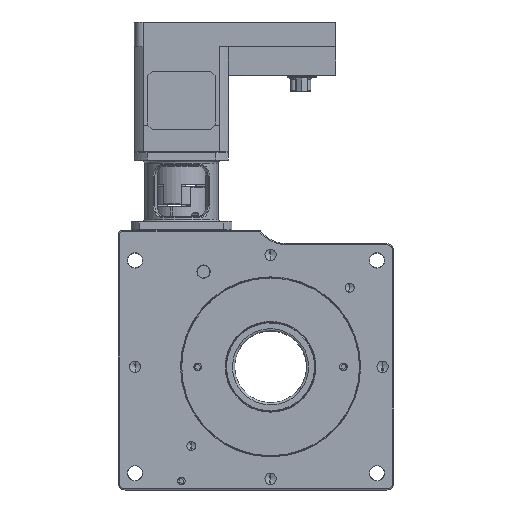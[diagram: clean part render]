
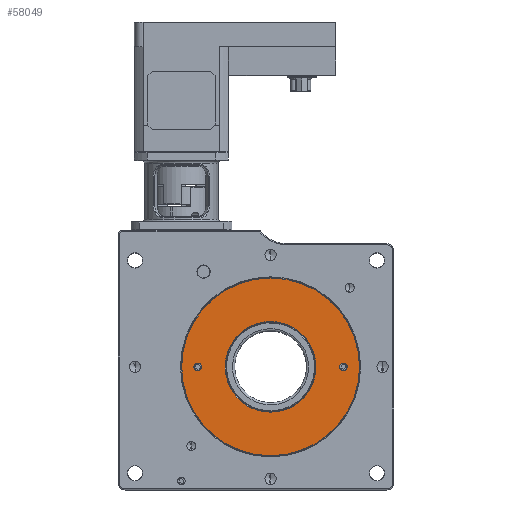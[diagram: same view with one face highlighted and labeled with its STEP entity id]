
A CAD part, front view. The second image highlights one B-rep face of the part: STEP entity #58049.
In plain terms, the highlighted planar face has unit normal (0, -1, 0).
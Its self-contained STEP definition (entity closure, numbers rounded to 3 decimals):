
#1491 = AXIS2_PLACEMENT_3D ( 'NONE', #23564, #49448, #75357 ) ;
#2507 = FACE_BOUND ( 'NONE', #64063, .T. ) ;
#2796 = CIRCLE ( 'NONE', #1491, 1.65 ) ;
#2955 = AXIS2_PLACEMENT_3D ( 'NONE', #27663, #53531, #79399 ) ;
#2981 = CARTESIAN_POINT ( 'NONE',  ( -32.5, 0.2, 1.65 ) ) ;
#3012 = CIRCLE ( 'NONE', #2955, 39.7 ) ;
#3157 = VERTEX_POINT ( 'NONE', #75269 ) ;
#5250 = ORIENTED_EDGE ( 'NONE', *, *, #65575, .T. ) ;
#6347 = DIRECTION ( 'NONE',  ( 0., 0., -1. ) ) ;
#6581 = EDGE_CURVE ( 'NONE', #3157, #76887, #48130, .T. ) ;
#6797 = AXIS2_PLACEMENT_3D ( 'NONE', #79993, #21878, #47754 ) ;
#7324 = ORIENTED_EDGE ( 'NONE', *, *, #58120, .F. ) ;
#10219 = ORIENTED_EDGE ( 'NONE', *, *, #78459, .F. ) ;
#10681 = AXIS2_PLACEMENT_3D ( 'NONE', #83048, #24967, #50836 ) ;
#10797 = CIRCLE ( 'NONE', #10681, 20.25 ) ;
#11390 = CARTESIAN_POINT ( 'NONE',  ( -32.5, 0.2, 0. ) ) ;
#13342 = VERTEX_POINT ( 'NONE', #27548 ) ;
#15002 = DIRECTION ( 'NONE',  ( 0., 0., -1. ) ) ;
#20029 = AXIS2_PLACEMENT_3D ( 'NONE', #11390, #56772, #82623 ) ;
#20080 = CIRCLE ( 'NONE', #20029, 1.65 ) ;
#21878 = DIRECTION ( 'NONE',  ( 0., -1., 0. ) ) ;
#22838 = DIRECTION ( 'NONE',  ( 0., 0., -1. ) ) ;
#23564 = CARTESIAN_POINT ( 'NONE',  ( 32.5, 0.2, 0. ) ) ;
#24073 = DIRECTION ( 'NONE',  ( 0., 0., -1. ) ) ;
#24547 = AXIS2_PLACEMENT_3D ( 'NONE', #47253, #73182, #15002 ) ;
#24592 = CIRCLE ( 'NONE', #24547, 39.7 ) ;
#24967 = DIRECTION ( 'NONE',  ( 0., 1., 0. ) ) ;
#27548 = CARTESIAN_POINT ( 'NONE',  ( 0., 0.2, -20.25 ) ) ;
#27663 = CARTESIAN_POINT ( 'NONE',  ( 0., 0.2, 0. ) ) ;
#28274 = FACE_OUTER_BOUND ( 'NONE', #43494, .T. ) ;
#31204 = CARTESIAN_POINT ( 'NONE',  ( 0., 0.2, 20.25 ) ) ;
#35395 = AXIS2_PLACEMENT_3D ( 'NONE', #56300, #82171, #24073 ) ;
#35579 = CIRCLE ( 'NONE', #35395, 20.25 ) ;
#37745 = CARTESIAN_POINT ( 'NONE',  ( -32.5, 0.2, -1.65 ) ) ;
#38508 = CARTESIAN_POINT ( 'NONE',  ( 32.5, 0.2, 0. ) ) ;
#39265 = VERTEX_POINT ( 'NONE', #53266 ) ;
#40739 = ORIENTED_EDGE ( 'NONE', *, *, #46050, .F. ) ;
#40964 = FACE_BOUND ( 'NONE', #78306, .T. ) ;
#41518 = CARTESIAN_POINT ( 'NONE',  ( 32.5, 0.2, 1.65 ) ) ;
#42860 = AXIS2_PLACEMENT_3D ( 'NONE', #55093, #80951, #22838 ) ;
#43494 = EDGE_LOOP ( 'NONE', ( #73558, #53602 ) ) ;
#44185 = CARTESIAN_POINT ( 'NONE',  ( 0., 0.2, -39.7 ) ) ;
#44873 = VERTEX_POINT ( 'NONE', #44185 ) ;
#45308 = EDGE_CURVE ( 'NONE', #39265, #44873, #24592, .T. ) ;
#46050 = EDGE_CURVE ( 'NONE', #63066, #68086, #20080, .T. ) ;
#47044 = AXIS2_PLACEMENT_3D ( 'NONE', #38508, #64458, #6347 ) ;
#47253 = CARTESIAN_POINT ( 'NONE',  ( 0., 0.2, 0. ) ) ;
#47754 = DIRECTION ( 'NONE',  ( 0., 0., -1. ) ) ;
#48130 = CIRCLE ( 'NONE', #47044, 1.65 ) ;
#48383 = CIRCLE ( 'NONE', #42860, 1.65 ) ;
#48935 = EDGE_CURVE ( 'NONE', #44873, #39265, #3012, .T. ) ;
#49448 = DIRECTION ( 'NONE',  ( 0., -1., 0. ) ) ;
#50836 = DIRECTION ( 'NONE',  ( 0., 0., -1. ) ) ;
#53266 = CARTESIAN_POINT ( 'NONE',  ( 0., 0.2, 39.7 ) ) ;
#53531 = DIRECTION ( 'NONE',  ( 0., -1., 0. ) ) ;
#53602 = ORIENTED_EDGE ( 'NONE', *, *, #48935, .T. ) ;
#54133 = PLANE ( 'NONE',  #6797 ) ;
#55093 = CARTESIAN_POINT ( 'NONE',  ( -32.5, 0.2, 0. ) ) ;
#56300 = CARTESIAN_POINT ( 'NONE',  ( 0., 0.2, 0. ) ) ;
#56772 = DIRECTION ( 'NONE',  ( 0., -1., 0. ) ) ;
#58049 = ADVANCED_FACE ( 'NONE', ( #40964, #60519, #2507, #28274 ), #54133, .T. ) ;
#58120 = EDGE_CURVE ( 'NONE', #76887, #3157, #2796, .T. ) ;
#60519 = FACE_BOUND ( 'NONE', #74270, .T. ) ;
#63066 = VERTEX_POINT ( 'NONE', #2981 ) ;
#64063 = EDGE_LOOP ( 'NONE', ( #5250, #75644 ) ) ;
#64458 = DIRECTION ( 'NONE',  ( 0., -1., 0. ) ) ;
#65575 = EDGE_CURVE ( 'NONE', #13342, #76521, #35579, .T. ) ;
#68086 = VERTEX_POINT ( 'NONE', #37745 ) ;
#68382 = EDGE_CURVE ( 'NONE', #76521, #13342, #10797, .T. ) ;
#72652 = ORIENTED_EDGE ( 'NONE', *, *, #6581, .F. ) ;
#73182 = DIRECTION ( 'NONE',  ( 0., -1., 0. ) ) ;
#73558 = ORIENTED_EDGE ( 'NONE', *, *, #45308, .T. ) ;
#74270 = EDGE_LOOP ( 'NONE', ( #72652, #7324 ) ) ;
#75269 = CARTESIAN_POINT ( 'NONE',  ( 32.5, 0.2, -1.65 ) ) ;
#75357 = DIRECTION ( 'NONE',  ( 0., 0., -1. ) ) ;
#75644 = ORIENTED_EDGE ( 'NONE', *, *, #68382, .T. ) ;
#76521 = VERTEX_POINT ( 'NONE', #31204 ) ;
#76887 = VERTEX_POINT ( 'NONE', #41518 ) ;
#78306 = EDGE_LOOP ( 'NONE', ( #10219, #40739 ) ) ;
#78459 = EDGE_CURVE ( 'NONE', #68086, #63066, #48383, .T. ) ;
#79399 = DIRECTION ( 'NONE',  ( 0., 0., -1. ) ) ;
#79993 = CARTESIAN_POINT ( 'NONE',  ( 26.05, 0.2, 0. ) ) ;
#80951 = DIRECTION ( 'NONE',  ( 0., -1., 0. ) ) ;
#82171 = DIRECTION ( 'NONE',  ( 0., 1., 0. ) ) ;
#82623 = DIRECTION ( 'NONE',  ( 0., 0., -1. ) ) ;
#83048 = CARTESIAN_POINT ( 'NONE',  ( 0., 0.2, 0. ) ) ;
